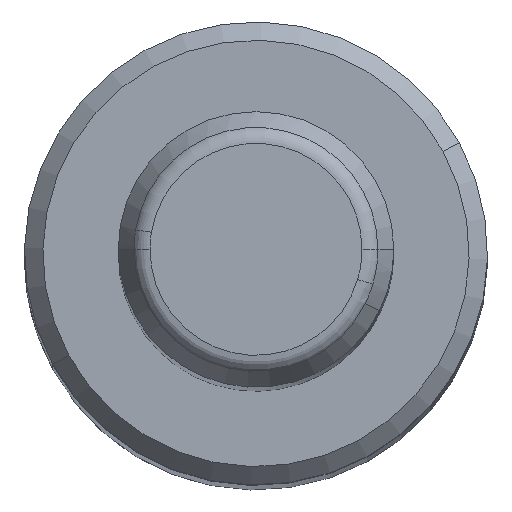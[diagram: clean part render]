
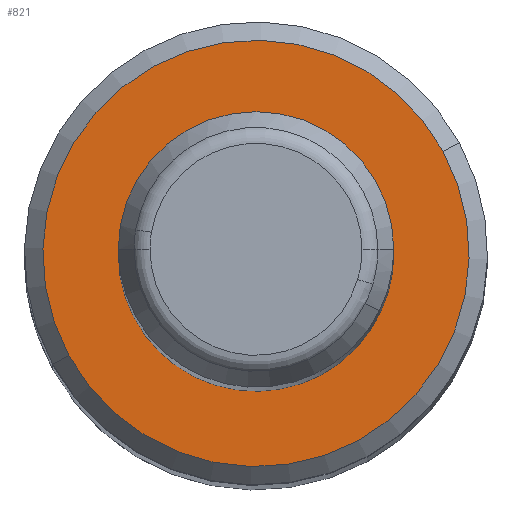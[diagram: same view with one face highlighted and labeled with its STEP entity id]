
A CAD part, top view. The second image highlights one B-rep face of the part: STEP entity #821.
In plain terms, the highlighted planar face has unit normal (0, 0, 1).
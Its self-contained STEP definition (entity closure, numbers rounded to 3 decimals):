
#769=CARTESIAN_POINT('Axis2P3D Location',(0.,0.,159.)) ;
#773=CARTESIAN_POINT('Vertex',(10.18,5.561,159.)) ;
#775=CARTESIAN_POINT('Vertex',(-10.18,-5.561,159.)) ;
#800=CARTESIAN_POINT('Axis2P3D Location',(0.,0.,159.)) ;
#812=CARTESIAN_POINT('Axis2P3D Location',(11.6,0.,159.)) ;
#770=DIRECTION('Axis2P3D Direction',(0.,0.,-1.)) ;
#801=DIRECTION('Axis2P3D Direction',(0.,0.,-1.)) ;
#813=DIRECTION('Axis2P3D Direction',(0.,0.,1.)) ;
#814=DIRECTION('Axis2P3D XDirection',(1.,0.,0.)) ;
#771=AXIS2_PLACEMENT_3D('Circle Axis2P3D',#769,#770,$) ;
#802=AXIS2_PLACEMENT_3D('Circle Axis2P3D',#800,#801,$) ;
#815=AXIS2_PLACEMENT_3D('Plane Axis2P3D',#812,#813,#814) ;
#818=ORIENTED_EDGE('',*,*,#777,.T.) ;
#819=ORIENTED_EDGE('',*,*,#804,.T.) ;
#821=ADVANCED_FACE('',(#820),#816,.T.) ;
#772=CIRCLE('generated circle',#771,11.6) ;
#803=CIRCLE('generated circle',#802,11.6) ;
#777=EDGE_CURVE('',#774,#776,#772,.F.) ;
#804=EDGE_CURVE('',#776,#774,#803,.F.) ;
#817=EDGE_LOOP('',(#818,#819)) ;
#820=FACE_OUTER_BOUND('',#817,.T.) ;
#816=PLANE('Plane',#815) ;
#774=VERTEX_POINT('',#773) ;
#776=VERTEX_POINT('',#775) ;
